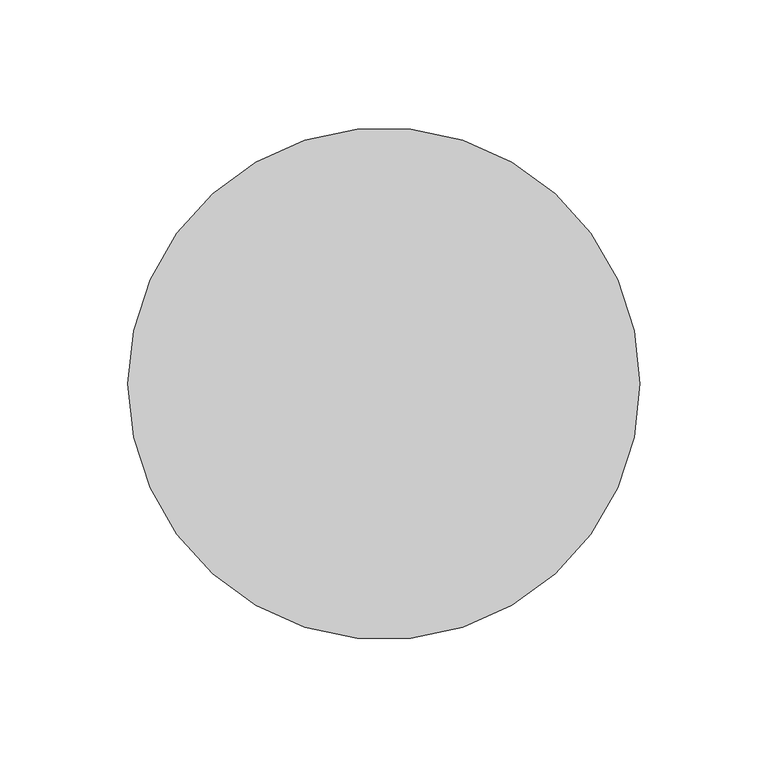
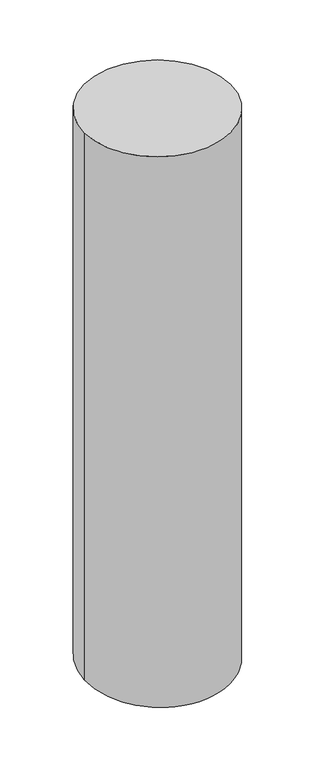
"""IFC4 building model written with IfcOpenShell, lengths in millimetres: member geometry, 矩形竖梃 : 圆瓦."""

import ifcopenshell
import ifcopenshell.guid

model = None  # the IFC model being written
_history = None  # IfcOwnerHistory: only IFC2X3 demands one
_inside = {}  # id of a spatial element -> (the spatial element, [elements in it])
_under = {}  # id of a project, library or spatial element -> (it, [spatial elements below it])
_declared = {}  # id of a project -> (the project, [libraries it declares])
_typed = {}  # id of a type object -> (the type object, [elements of that type])
_made_of = {}  # id of a material, layer set ... -> (it, [elements and type objects made of it])


def new_model(schema):
    """Start an empty IFC model of exactly this schema.

    Asked for "IFC4X3", IfcOpenShell would pick the latest addendum, in which some entities
    have other attributes; the version numbers below select the first issue.
    IFC2X3 requires an IfcOwnerHistory on every rooted entity: one is made here for all.
    """
    global model, _history
    if schema == "IFC4X3":
        model = ifcopenshell.file(schema_version=(4, 3, 0, 0))
    else:
        model = ifcopenshell.file(schema=schema)
    _inside.clear()
    _under.clear()
    _declared.clear()
    _typed.clear()
    _made_of.clear()
    _history = None
    if model.schema == "IFC2X3":
        org = make("IfcOrganization", Name="unknown")
        user = make(
            "IfcPersonAndOrganization",
            ThePerson=make("IfcPerson", FamilyName="unknown"),
            TheOrganization=org,
        )
        app = make(
            "IfcApplication",
            ApplicationDeveloper=org,
            Version="unknown",
            ApplicationFullName="unknown",
            ApplicationIdentifier="unknown",
        )
        _history = make(
            "IfcOwnerHistory",
            OwningUser=user,
            OwningApplication=app,
            ChangeAction="ADDED",
            CreationDate=0,
        )
    return model


def make(cls, **values):
    """One entity of the class cls with the attributes given. An attribute that is None is left unset."""
    return model.create_entity(
        cls, **{name: value for name, value in values.items() if value is not None}
    )


def rooted(cls, **values):
    """An entity with a GlobalId (a new one), such as an element, a storey or a relation."""
    return make(cls, GlobalId=ifcopenshell.guid.new(), OwnerHistory=_history, **values)


def si_unit(unit_type, name, prefix=None):
    """IfcSIUnit, for example si_unit("LENGTHUNIT", "METRE", prefix="MILLI")."""
    return make("IfcSIUnit", UnitType=unit_type, Prefix=prefix, Name=name)


def assignment(units):
    """IfcUnitAssignment: the units of a project."""
    return None if units is None else make("IfcUnitAssignment", Units=units)


def point(xyz):
    """IfcCartesianPoint."""
    return None if xyz is None else make("IfcCartesianPoint", Coordinates=xyz)


def direction(xyz):
    """IfcDirection."""
    return None if xyz is None else make("IfcDirection", DirectionRatios=xyz)


def frame(location, z_axis=None, x_axis=None):
    """IfcAxis2Placement3D, a coordinate frame: its origin and axes. An axis left out is left unset."""
    return make(
        "IfcAxis2Placement3D",
        Location=point(location),
        Axis=direction(z_axis),
        RefDirection=direction(x_axis),
    )


def origin():
    """The frame at (0, 0, 0) with its axes left unset."""
    return frame((0.0, 0.0, 0.0))


def origin_with_axes():
    """The frame at (0, 0, 0) with the z axis (0, 0, 1) and the x axis (1, 0, 0) written out."""
    return frame((0.0, 0.0, 0.0), z_axis=(0.0, 0.0, 1.0), x_axis=(1.0, 0.0, 0.0))


def place(relative_to, where):
    """IfcLocalPlacement: puts the frame where relative to a parent placement (None: the world)."""
    return make(
        "IfcLocalPlacement", PlacementRelTo=relative_to, RelativePlacement=where
    )


def context(
    kind, dimensions, precision=None, world=None, true_north=None, identifier=None
):
    """IfcGeometricRepresentationContext, for example the 3D "Model" context."""
    return make(
        "IfcGeometricRepresentationContext",
        ContextIdentifier=identifier,
        ContextType=kind,
        CoordinateSpaceDimension=dimensions,
        Precision=precision,
        WorldCoordinateSystem=world,
        TrueNorth=true_north,
    )


def project(units=None, contexts=None):
    """IfcProject with its units and contexts."""
    return rooted(
        "IfcProject",
        Name="project",
        RepresentationContexts=contexts,
        UnitsInContext=assignment(units),
    )


def spatial(cls, under=None, at=None, **own):
    """A site, building, storey or space (cls), placed at a placement, below another one or the project."""
    s = rooted(cls, ObjectPlacement=at, **own)
    if under is not None:
        _under.setdefault(under.id(), (under, []))[1].append(s)
    return s


def circle_curve(where, radius):
    """IfcCircle in the frame where."""
    return make("IfcCircle", Position=where, Radius=radius)


def ellipse_curve(where, semi_axis1, semi_axis2):
    """IfcEllipse in the frame where."""
    return make(
        "IfcEllipse", Position=where, SemiAxis1=semi_axis1, SemiAxis2=semi_axis2
    )


def shape(context_of_items, identifier, shape_type, items):
    """IfcShapeRepresentation: the items that make up one representation, for example the "Body"."""
    return make(
        "IfcShapeRepresentation",
        ContextOfItems=context_of_items,
        RepresentationIdentifier=identifier,
        RepresentationType=shape_type,
        Items=items,
    )


def source(mapping_origin, context_of_items, identifier, shape_type, items):
    """IfcRepresentationMap: a shape defined once, which mapped items show again and again."""
    return make(
        "IfcRepresentationMap",
        MappingOrigin=mapping_origin,
        MappedRepresentation=shape(context_of_items, identifier, shape_type, items),
    )


def transform(
    local_origin,
    x_axis=None,
    y_axis=None,
    z_axis=None,
    scale=None,
    scale2=None,
    scale3=None,
    uniform=True,
):
    """IfcCartesianTransformationOperator3D, or its non-uniform kind. x_axis, y_axis, z_axis: its Axis1, 2, 3."""
    if uniform:
        return make(
            "IfcCartesianTransformationOperator3D",
            Axis1=direction(x_axis),
            Axis2=direction(y_axis),
            LocalOrigin=point(local_origin),
            Scale=scale,
            Axis3=direction(z_axis),
        )
    return make(
        "IfcCartesianTransformationOperator3DnonUniform",
        Axis1=direction(x_axis),
        Axis2=direction(y_axis),
        LocalOrigin=point(local_origin),
        Scale=scale,
        Axis3=direction(z_axis),
        Scale2=scale2,
        Scale3=scale3,
    )


def mapped(mapping_source, mapping_target):
    """IfcMappedItem: shows the shape of a source again, moved by a transform."""
    return make(
        "IfcMappedItem", MappingSource=mapping_source, MappingTarget=mapping_target
    )


def made_of(thing, what):
    """Note that an element or type object is made of a material, layer set ...; save() writes the relation."""
    if what is not None:
        _made_of.setdefault(what.id(), (what, []))[1].append(thing)
    return thing


def element(
    cls,
    number,
    at=None,
    inside=None,
    cuts=None,
    type_object=None,
    material=None,
    context=None,
    identifier="Body",
    shape_type=None,
    held_by="IfcProductDefinitionShape",
    body=None,
    shapes=None,
    **own,
):
    """One element of the class cls, such as IfcWall. Its Tag is "e" and its number.

    at: its placement. inside: the storey or other place that contains it. cuts: it is an
    opening in that element (IfcRelVoidsElement). A single representation is given by context,
    identifier, shape_type and body (its items); several are given by shapes. held_by: the class
    of the entity that holds the representations. save() writes the other relations.
    """
    e = rooted(cls, Tag="e%d" % number, ObjectPlacement=at, **own)
    if body is not None:
        shapes = [shape(context, identifier, shape_type, body)]
    if shapes is not None:
        e.Representation = make(held_by, Representations=shapes)
    if inside is not None:
        _inside.setdefault(inside.id(), (inside, []))[1].append(e)
    if cuts is not None:
        rooted(
            "IfcRelVoidsElement", RelatingBuildingElement=cuts, RelatedOpeningElement=e
        )
    if type_object is not None:
        _typed.setdefault(type_object.id(), (type_object, []))[1].append(e)
    return made_of(e, material)


def aggregate(whole, parts):
    """IfcRelAggregates: a whole, such as a stair, and the parts it consists of."""
    return rooted("IfcRelAggregates", RelatingObject=whole, RelatedObjects=parts)


def save(model, path):
    """Write the relations noted so far, then the file.

    IfcRelAggregates (storeys below a building ...), IfcRelContainedInSpatialStructure (elements
    in a storey), IfcRelDefinesByType, IfcRelAssociatesMaterial and IfcRelDeclares: one each for
    every whole, place, type object, material and project.
    """
    for whole, parts in _under.values():
        aggregate(whole, parts)
    for where, things in _inside.values():
        rooted(
            "IfcRelContainedInSpatialStructure",
            RelatedElements=things,
            RelatingStructure=where,
        )
    for kind, things in _typed.values():
        rooted("IfcRelDefinesByType", RelatedObjects=things, RelatingType=kind)
    for what, things in _made_of.values():
        rooted("IfcRelAssociatesMaterial", RelatedObjects=things, RelatingMaterial=what)
    for by, libraries in _declared.values():
        rooted("IfcRelDeclares", RelatingContext=by, RelatedDefinitions=libraries)
    model.write(path)


def plane_surface(at):
    """IfcPlane: the flat surface through the origin of the frame at, square to its z axis."""
    return make("IfcPlane", Position=at)


def cylinder_surface(at, radius):
    """IfcCylindricalSurface: all points at the distance radius from the z axis of the frame at."""
    return make("IfcCylindricalSurface", Position=at, Radius=radius)


def advanced_brep(points, edges, surfaces, faces):
    """IfcAdvancedBrep: a solid bounded by faces that lie on surfaces and meet in shared edges.

    An edge is (start, end): straight between two places in points (the first is 0);
    or (start, end, curve); or (start, end, curve, False) where it runs against its curve.
    A face is (place in surfaces, loops), or (place, loops, False) where it looks against
    its surface's normal. A loop lists edges by number (the first is 1), with a minus sign
    where the edge is run from its end to its start. The first loop is the outer one.
    """
    corners = [point(p) for p in points]
    vertices = [make("IfcVertexPoint", VertexGeometry=c) for c in corners]
    made = []
    for start, end, *more in edges:
        made.append(
            make(
                "IfcEdgeCurve",
                EdgeStart=vertices[start],
                EdgeEnd=vertices[end],
                EdgeGeometry=more[0] if more else make("IfcPolyline", Points=[corners[start], corners[end]]),
                SameSense=more[1] if len(more) > 1 else True,
            )
        )
    hull = []
    for where, loops, *sense in faces:
        bounds = []
        for j, loop in enumerate(loops):
            ring = [make("IfcOrientedEdge", EdgeElement=made[abs(k) - 1], Orientation=k > 0) for k in loop]
            bounds.append(
                make(
                    "IfcFaceOuterBound" if j == 0 else "IfcFaceBound",
                    Bound=make("IfcEdgeLoop", EdgeList=ring),
                    Orientation=True,
                )
            )
        hull.append(make("IfcAdvancedFace", Bounds=bounds, FaceSurface=surfaces[where], SameSense=sense[0] if sense else True))
    return make("IfcAdvancedBrep", Outer=make("IfcClosedShell", CfsFaces=hull))


def member_52a6bcec(model_context):
    return source(origin(), model_context, "Body", "AdvancedBrep", [
        advanced_brep(
        [(100.0, 0.0, 0.0), (-100.0, 0.0, 0.0), (100.0, 0.0, -790.1124317), (-100.0, 0.0, -790.1124317)],
        [
            (0, 1, circle_curve(origin_with_axes(), 100.0)),
            (1, 0, circle_curve(origin_with_axes(), 100.0)),
            (0, 2),
            (2, 3, ellipse_curve(frame((0.0, 0.0, -790.1124317), z_axis=(0.0, -0.06182029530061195, 0.9980872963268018), x_axis=(0.0, 0.9980872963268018, 0.061820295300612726)), 100.1916369, 100.0)),
            (3, 1),
            (3, 2, ellipse_curve(frame((0.0, 0.0, -790.1124317), z_axis=(0.0, -0.06182029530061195, 0.9980872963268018), x_axis=(0.0, 0.9980872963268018, 0.061820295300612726)), 100.1916369, 100.0)),
        ],
        [
            plane_surface(frame((0.0, -100.0, 0.0), z_axis=(0.0, 0.0, 1.0), x_axis=(-1.0, 0.0, 0.0))),
            cylinder_surface(origin_with_axes(), 100.0),
            plane_surface(frame((-304.8, 0.0, -790.1124317), z_axis=(0.0, 0.06182029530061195, -0.9980872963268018), x_axis=(0.0, 0.9980872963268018, 0.06182029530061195))),
        ],
        [
            (0, [[1, 2]]),
            (1, [[-1, 3, 4, 5]]),
            (1, [[-2, -5, 6, -3]]),
            (2, [[-6, -4]]),
        ],
    ),
    ])


if __name__ == "__main__":
    model = new_model("IFC4")
    model_context = context("Model", 3, world=origin())
    ifc_project = project(units=[si_unit("LENGTHUNIT", "METRE", prefix="MILLI")], contexts=[model_context])
    site = spatial("IfcSite", under=ifc_project)
    building = spatial("IfcBuilding", under=site)
    placement = place(None, origin())
    member_shape = member_52a6bcec(model_context)
    element("IfcMember", 1, ObjectType="矩形竖梃 : 圆瓦", at=placement, inside=building, context=model_context, shape_type="MappedRepresentation", body=[
        mapped(member_shape, transform((0.0, 0.0, 0.0), x_axis=(1.0, 0.0, 0.0), y_axis=(0.0, 1.0, 0.0), z_axis=(0.0, 0.0, 1.0))),
    ])
    save(model, "model.ifc")
